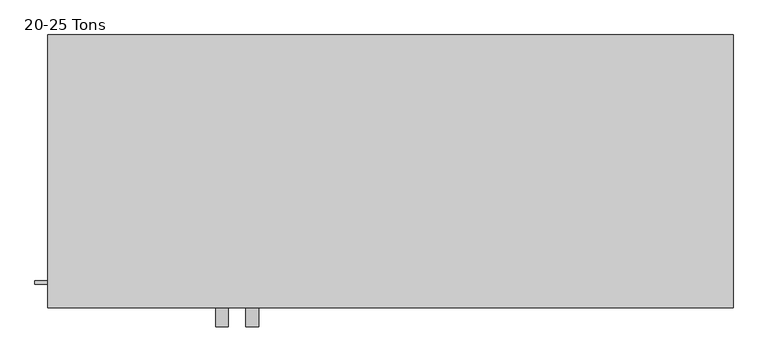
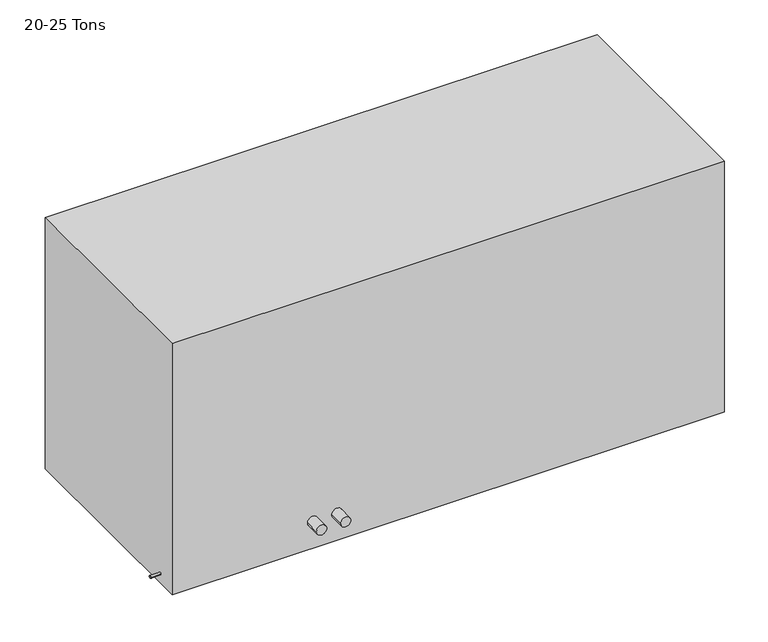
"""IFC4 building model written with IfcOpenShell, lengths in millimetres: proxy geometry, 20-55 Tons Air Cooled Scroll Chiller : 20-25 Tons."""

import ifcopenshell
import ifcopenshell.guid

model = None  # the IFC model being written
_history = None  # IfcOwnerHistory: only IFC2X3 demands one
_inside = {}  # id of a spatial element -> (the spatial element, [elements in it])
_under = {}  # id of a project, library or spatial element -> (it, [spatial elements below it])
_declared = {}  # id of a project -> (the project, [libraries it declares])
_typed = {}  # id of a type object -> (the type object, [elements of that type])
_made_of = {}  # id of a material, layer set ... -> (it, [elements and type objects made of it])


def new_model(schema):
    """Start an empty IFC model of exactly this schema.

    Asked for "IFC4X3", IfcOpenShell would pick the latest addendum, in which some entities
    have other attributes; the version numbers below select the first issue.
    IFC2X3 requires an IfcOwnerHistory on every rooted entity: one is made here for all.
    """
    global model, _history
    if schema == "IFC4X3":
        model = ifcopenshell.file(schema_version=(4, 3, 0, 0))
    else:
        model = ifcopenshell.file(schema=schema)
    _inside.clear()
    _under.clear()
    _declared.clear()
    _typed.clear()
    _made_of.clear()
    _history = None
    if model.schema == "IFC2X3":
        org = make("IfcOrganization", Name="unknown")
        user = make(
            "IfcPersonAndOrganization",
            ThePerson=make("IfcPerson", FamilyName="unknown"),
            TheOrganization=org,
        )
        app = make(
            "IfcApplication",
            ApplicationDeveloper=org,
            Version="unknown",
            ApplicationFullName="unknown",
            ApplicationIdentifier="unknown",
        )
        _history = make(
            "IfcOwnerHistory",
            OwningUser=user,
            OwningApplication=app,
            ChangeAction="ADDED",
            CreationDate=0,
        )
    return model


def make(cls, **values):
    """One entity of the class cls with the attributes given. An attribute that is None is left unset."""
    return model.create_entity(
        cls, **{name: value for name, value in values.items() if value is not None}
    )


def rooted(cls, **values):
    """An entity with a GlobalId (a new one), such as an element, a storey or a relation."""
    return make(cls, GlobalId=ifcopenshell.guid.new(), OwnerHistory=_history, **values)


def si_unit(unit_type, name, prefix=None):
    """IfcSIUnit, for example si_unit("LENGTHUNIT", "METRE", prefix="MILLI")."""
    return make("IfcSIUnit", UnitType=unit_type, Prefix=prefix, Name=name)


def assignment(units):
    """IfcUnitAssignment: the units of a project."""
    return None if units is None else make("IfcUnitAssignment", Units=units)


def point(xyz):
    """IfcCartesianPoint."""
    return None if xyz is None else make("IfcCartesianPoint", Coordinates=xyz)


def direction(xyz):
    """IfcDirection."""
    return None if xyz is None else make("IfcDirection", DirectionRatios=xyz)


def frame(location, z_axis=None, x_axis=None):
    """IfcAxis2Placement3D, a coordinate frame: its origin and axes. An axis left out is left unset."""
    return make(
        "IfcAxis2Placement3D",
        Location=point(location),
        Axis=direction(z_axis),
        RefDirection=direction(x_axis),
    )


def origin():
    """The frame at (0, 0, 0) with its axes left unset."""
    return frame((0.0, 0.0, 0.0))


def place(relative_to, where):
    """IfcLocalPlacement: puts the frame where relative to a parent placement (None: the world)."""
    return make(
        "IfcLocalPlacement", PlacementRelTo=relative_to, RelativePlacement=where
    )


def context(
    kind, dimensions, precision=None, world=None, true_north=None, identifier=None
):
    """IfcGeometricRepresentationContext, for example the 3D "Model" context."""
    return make(
        "IfcGeometricRepresentationContext",
        ContextIdentifier=identifier,
        ContextType=kind,
        CoordinateSpaceDimension=dimensions,
        Precision=precision,
        WorldCoordinateSystem=world,
        TrueNorth=true_north,
    )


def project(units=None, contexts=None):
    """IfcProject with its units and contexts."""
    return rooted(
        "IfcProject",
        Name="project",
        RepresentationContexts=contexts,
        UnitsInContext=assignment(units),
    )


def spatial(cls, under=None, at=None, **own):
    """A site, building, storey or space (cls), placed at a placement, below another one or the project."""
    s = rooted(cls, ObjectPlacement=at, **own)
    if under is not None:
        _under.setdefault(under.id(), (under, []))[1].append(s)
    return s


def circle_curve(where, radius):
    """IfcCircle in the frame where."""
    return make("IfcCircle", Position=where, Radius=radius)


def shape(context_of_items, identifier, shape_type, items):
    """IfcShapeRepresentation: the items that make up one representation, for example the "Body"."""
    return make(
        "IfcShapeRepresentation",
        ContextOfItems=context_of_items,
        RepresentationIdentifier=identifier,
        RepresentationType=shape_type,
        Items=items,
    )


def source(mapping_origin, context_of_items, identifier, shape_type, items):
    """IfcRepresentationMap: a shape defined once, which mapped items show again and again."""
    return make(
        "IfcRepresentationMap",
        MappingOrigin=mapping_origin,
        MappedRepresentation=shape(context_of_items, identifier, shape_type, items),
    )


def transform(
    local_origin,
    x_axis=None,
    y_axis=None,
    z_axis=None,
    scale=None,
    scale2=None,
    scale3=None,
    uniform=True,
):
    """IfcCartesianTransformationOperator3D, or its non-uniform kind. x_axis, y_axis, z_axis: its Axis1, 2, 3."""
    if uniform:
        return make(
            "IfcCartesianTransformationOperator3D",
            Axis1=direction(x_axis),
            Axis2=direction(y_axis),
            LocalOrigin=point(local_origin),
            Scale=scale,
            Axis3=direction(z_axis),
        )
    return make(
        "IfcCartesianTransformationOperator3DnonUniform",
        Axis1=direction(x_axis),
        Axis2=direction(y_axis),
        LocalOrigin=point(local_origin),
        Scale=scale,
        Axis3=direction(z_axis),
        Scale2=scale2,
        Scale3=scale3,
    )


def mapped(mapping_source, mapping_target):
    """IfcMappedItem: shows the shape of a source again, moved by a transform."""
    return make(
        "IfcMappedItem", MappingSource=mapping_source, MappingTarget=mapping_target
    )


def made_of(thing, what):
    """Note that an element or type object is made of a material, layer set ...; save() writes the relation."""
    if what is not None:
        _made_of.setdefault(what.id(), (what, []))[1].append(thing)
    return thing


def element(
    cls,
    number,
    at=None,
    inside=None,
    cuts=None,
    type_object=None,
    material=None,
    context=None,
    identifier="Body",
    shape_type=None,
    held_by="IfcProductDefinitionShape",
    body=None,
    shapes=None,
    **own,
):
    """One element of the class cls, such as IfcWall. Its Tag is "e" and its number.

    at: its placement. inside: the storey or other place that contains it. cuts: it is an
    opening in that element (IfcRelVoidsElement). A single representation is given by context,
    identifier, shape_type and body (its items); several are given by shapes. held_by: the class
    of the entity that holds the representations. save() writes the other relations.
    """
    e = rooted(cls, Tag="e%d" % number, ObjectPlacement=at, **own)
    if body is not None:
        shapes = [shape(context, identifier, shape_type, body)]
    if shapes is not None:
        e.Representation = make(held_by, Representations=shapes)
    if inside is not None:
        _inside.setdefault(inside.id(), (inside, []))[1].append(e)
    if cuts is not None:
        rooted(
            "IfcRelVoidsElement", RelatingBuildingElement=cuts, RelatedOpeningElement=e
        )
    if type_object is not None:
        _typed.setdefault(type_object.id(), (type_object, []))[1].append(e)
    return made_of(e, material)


def aggregate(whole, parts):
    """IfcRelAggregates: a whole, such as a stair, and the parts it consists of."""
    return rooted("IfcRelAggregates", RelatingObject=whole, RelatedObjects=parts)


def save(model, path):
    """Write the relations noted so far, then the file.

    IfcRelAggregates (storeys below a building ...), IfcRelContainedInSpatialStructure (elements
    in a storey), IfcRelDefinesByType, IfcRelAssociatesMaterial and IfcRelDeclares: one each for
    every whole, place, type object, material and project.
    """
    for whole, parts in _under.values():
        aggregate(whole, parts)
    for where, things in _inside.values():
        rooted(
            "IfcRelContainedInSpatialStructure",
            RelatedElements=things,
            RelatingStructure=where,
        )
    for kind, things in _typed.values():
        rooted("IfcRelDefinesByType", RelatedObjects=things, RelatingType=kind)
    for what, things in _made_of.values():
        rooted("IfcRelAssociatesMaterial", RelatedObjects=things, RelatingMaterial=what)
    for by, libraries in _declared.values():
        rooted("IfcRelDeclares", RelatingContext=by, RelatedDefinitions=libraries)
    model.write(path)


def plane_surface(at):
    """IfcPlane: the flat surface through the origin of the frame at, square to its z axis."""
    return make("IfcPlane", Position=at)


def cylinder_surface(at, radius):
    """IfcCylindricalSurface: all points at the distance radius from the z axis of the frame at."""
    return make("IfcCylindricalSurface", Position=at, Radius=radius)


def advanced_brep(points, edges, surfaces, faces):
    """IfcAdvancedBrep: a solid bounded by faces that lie on surfaces and meet in shared edges.

    An edge is (start, end): straight between two places in points (the first is 0);
    or (start, end, curve); or (start, end, curve, False) where it runs against its curve.
    A face is (place in surfaces, loops), or (place, loops, False) where it looks against
    its surface's normal. A loop lists edges by number (the first is 1), with a minus sign
    where the edge is run from its end to its start. The first loop is the outer one.
    """
    corners = [point(p) for p in points]
    vertices = [make("IfcVertexPoint", VertexGeometry=c) for c in corners]
    made = []
    for start, end, *more in edges:
        made.append(
            make(
                "IfcEdgeCurve",
                EdgeStart=vertices[start],
                EdgeEnd=vertices[end],
                EdgeGeometry=more[0] if more else make("IfcPolyline", Points=[corners[start], corners[end]]),
                SameSense=more[1] if len(more) > 1 else True,
            )
        )
    hull = []
    for where, loops, *sense in faces:
        bounds = []
        for j, loop in enumerate(loops):
            ring = [make("IfcOrientedEdge", EdgeElement=made[abs(k) - 1], Orientation=k > 0) for k in loop]
            bounds.append(
                make(
                    "IfcFaceOuterBound" if j == 0 else "IfcFaceBound",
                    Bound=make("IfcEdgeLoop", EdgeList=ring),
                    Orientation=True,
                )
            )
        hull.append(make("IfcAdvancedFace", Bounds=bounds, FaceSurface=surfaces[where], SameSense=sense[0] if sense else True))
    return make("IfcAdvancedBrep", Outer=make("IfcClosedShell", CfsFaces=hull))


def proxy_20_25_tons_50dc316f(model_context):
    return source(origin(), model_context, "Body", "AdvancedBrep", [
        advanced_brep(
        [(2743.2, 0.0, 1320.8), (0.0, 0.0, 1320.8), (0.0, -1092.2, 1320.8), (2743.2, -1092.2, 1320.8), (2743.2, 0.0, 0.0), (2743.2, -1092.2, 0.0), (0.0, -1092.2, 0.0), (0.0, 0.0, 0.0), (0.0, -996.95, 50.8), (0.0, -984.25, 50.8), (723.9, -1092.2, 142.875), (673.1, -1092.2, 142.875), (844.55, -1092.2, 142.875), (793.75, -1092.2, 142.875), (-50.8, -996.95, 50.8), (-50.8, -984.25, 50.8), (673.1, -1168.4, 142.875), (723.9, -1168.4, 142.875), (793.75, -1168.4, 142.875), (844.55, -1168.4, 142.875)],
        [
            (0, 1),
            (1, 2),
            (2, 3),
            (3, 0),
            (4, 5),
            (5, 6),
            (6, 7),
            (7, 4),
            (0, 4),
            (7, 1),
            (6, 2),
            (8, 9, circle_curve(frame((0.0, -990.6, 50.8), z_axis=(1.0, 0.0, 0.0), x_axis=(0.0, 1.0, 0.0)), 6.35)),
            (9, 8, circle_curve(frame((0.0, -990.6, 50.8), z_axis=(1.0, 0.0, 0.0), x_axis=(0.0, 1.0, 0.0)), 6.35)),
            (5, 3),
            (10, 11, circle_curve(frame((698.5, -1092.2, 142.875), z_axis=(0.0, 1.0, 0.0), x_axis=(1.0, 0.0, 0.0)), 25.4)),
            (11, 10, circle_curve(frame((698.5, -1092.2, 142.875), z_axis=(0.0, 1.0, 0.0), x_axis=(1.0, 0.0, 0.0)), 25.4)),
            (12, 13, circle_curve(frame((819.15, -1092.2, 142.875), z_axis=(0.0, 1.0, 0.0), x_axis=(1.0, 0.0, 0.0)), 25.4)),
            (13, 12, circle_curve(frame((819.15, -1092.2, 142.875), z_axis=(0.0, 1.0, 0.0), x_axis=(1.0, 0.0, 0.0)), 25.4)),
            (14, 15, circle_curve(frame((-50.8, -990.6, 50.8), z_axis=(-1.0, 0.0, 0.0), x_axis=(0.0, 1.0, 0.0)), 6.35)),
            (15, 14, circle_curve(frame((-50.8, -990.6, 50.8), z_axis=(-1.0, 0.0, 0.0), x_axis=(0.0, 1.0, 0.0)), 6.35)),
            (15, 9),
            (8, 14),
            (16, 17, circle_curve(frame((698.5, -1168.4, 142.875), z_axis=(0.0, -1.0, 0.0), x_axis=(1.0, 0.0, 0.0)), 25.4)),
            (17, 16, circle_curve(frame((698.5, -1168.4, 142.875), z_axis=(0.0, -1.0, 0.0), x_axis=(1.0, 0.0, 0.0)), 25.4)),
            (16, 11),
            (10, 17),
            (18, 19, circle_curve(frame((819.15, -1168.4, 142.875), z_axis=(0.0, -1.0, 0.0), x_axis=(1.0, 0.0, 0.0)), 25.4)),
            (19, 18, circle_curve(frame((819.15, -1168.4, 142.875), z_axis=(0.0, -1.0, 0.0), x_axis=(1.0, 0.0, 0.0)), 25.4)),
            (18, 13),
            (12, 19),
        ],
        [
            plane_surface(frame((0.0, 0.0, 1320.8), z_axis=(0.0, 0.0, 1.0), x_axis=(-1.0, 0.0, 0.0))),
            plane_surface(frame((0.0, 0.0, 0.0), z_axis=(0.0, 0.0, -1.0), x_axis=(1.0, 0.0, 0.0))),
            plane_surface(frame((2743.2, 0.0, 1320.8), z_axis=(0.0, 1.0, 0.0), x_axis=(0.0, 0.0, -1.0))),
            plane_surface(frame((0.0, 0.0, 1320.8), z_axis=(-1.0, 0.0, 0.0), x_axis=(0.0, 0.0, -1.0))),
            plane_surface(frame((0.0, -1092.2, 1320.8), z_axis=(0.0, -1.0, 0.0), x_axis=(0.0, 0.0, -1.0))),
            plane_surface(frame((2743.2, -1092.2, 1320.8), z_axis=(1.0, 0.0, 0.0), x_axis=(0.0, 0.0, -1.0))),
            plane_surface(frame((-50.8, -984.25, 50.8), z_axis=(-1.0, 0.0, 0.0), x_axis=(0.0, 0.0, -1.0))),
            cylinder_surface(frame((-50.8, -990.6, 50.8), z_axis=(1.0, 0.0, 0.0), x_axis=(0.0, 1.0, 0.0)), 6.35),
            plane_surface(frame((723.9, -1168.4, 142.875), z_axis=(0.0, -1.0, 0.0), x_axis=(0.0, 0.0, 1.0))),
            cylinder_surface(frame((698.5, -1092.2, 142.875), z_axis=(0.0, -1.0, 0.0), x_axis=(1.0, 0.0, 0.0)), 25.4),
            plane_surface(frame((844.55, -1168.4, 142.875), z_axis=(0.0, -1.0, 0.0), x_axis=(0.0, 0.0, 1.0))),
            cylinder_surface(frame((819.15, -1092.2, 142.875), z_axis=(0.0, -1.0, 0.0), x_axis=(1.0, 0.0, 0.0)), 25.4),
        ],
        [
            (0, [[1, 2, 3, 4]]),
            (1, [[5, 6, 7, 8]]),
            (2, [[-1, 9, -8, 10]]),
            (3, [[-2, -10, -7, 11], [12, 13]]),
            (4, [[-3, -11, -6, 14], [15, 16], [17, 18]]),
            (5, [[-4, -14, -5, -9]]),
            (6, [[19, 20]]),
            (7, [[-20, 21, -12, 22]]),
            (7, [[-19, -22, -13, -21]]),
            (8, [[23, 24]]),
            (9, [[-23, 25, -15, 26]]),
            (9, [[-24, -26, -16, -25]]),
            (10, [[27, 28]]),
            (11, [[-27, 29, -17, 30]]),
            (11, [[-28, -30, -18, -29]]),
        ],
    ),
    ])


if __name__ == "__main__":
    model = new_model("IFC4")
    model_context = context("Model", 3, world=origin())
    ifc_project = project(units=[si_unit("LENGTHUNIT", "METRE", prefix="MILLI")], contexts=[model_context])
    site = spatial("IfcSite", under=ifc_project)
    building = spatial("IfcBuilding", under=site)
    placement = place(None, origin())
    proxy_20_25_tons_shape = proxy_20_25_tons_50dc316f(model_context)
    element("IfcBuildingElementProxy", 1, Name="20-55 Tons Air Cooled Scroll Chiller : 20-25 Tons", ObjectType="20-55 Tons Air Cooled Scroll Chiller : 20-25 Tons", at=placement, inside=building, context=model_context, shape_type="MappedRepresentation", body=[
        mapped(proxy_20_25_tons_shape, transform((0.0, 0.0, 0.0), x_axis=(1.0, 0.0, 0.0), y_axis=(0.0, 1.0, 0.0), z_axis=(0.0, 0.0, 1.0))),
    ])
    save(model, "model.ifc")
